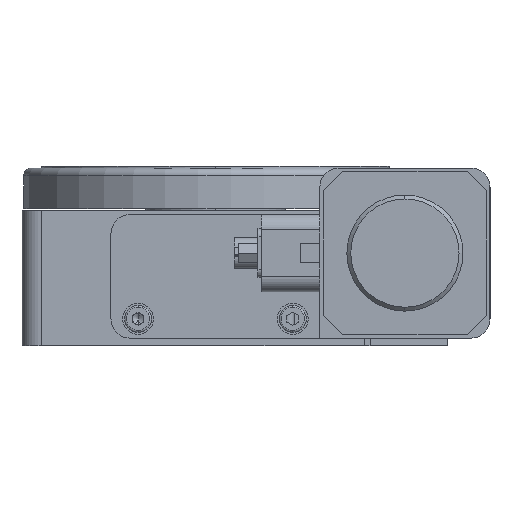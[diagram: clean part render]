
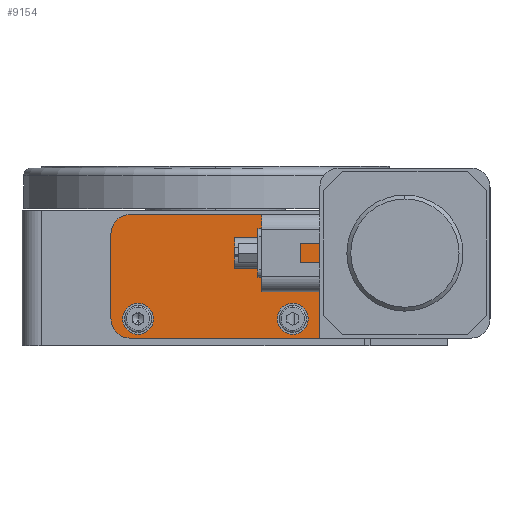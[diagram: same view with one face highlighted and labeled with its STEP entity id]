
A CAD part, front view. The second image highlights one B-rep face of the part: STEP entity #9154.
In plain terms, the highlighted planar face has unit normal (0, -1, 0).
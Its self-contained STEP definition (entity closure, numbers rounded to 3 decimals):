
#20 = DIRECTION ( 'NONE',  ( 0., -1., 0. ) ) ;
#170 = CARTESIAN_POINT ( 'NONE',  ( -20., -93., 7. ) ) ;
#313 = AXIS2_PLACEMENT_3D ( 'NONE', #1278, #12434, #2880 ) ;
#327 = CIRCLE ( 'NONE', #4083, 4. ) ;
#430 = ORIENTED_EDGE ( 'NONE', *, *, #1660, .T. ) ;
#485 = EDGE_CURVE ( 'NONE', #17589, #20093, #9389, .T. ) ;
#499 = CARTESIAN_POINT ( 'NONE',  ( 20., -93., 7. ) ) ;
#563 = AXIS2_PLACEMENT_3D ( 'NONE', #6719, #17867, #8306 ) ;
#977 = EDGE_CURVE ( 'NONE', #15010, #2017, #4265, .T. ) ;
#1278 = CARTESIAN_POINT ( 'NONE',  ( -20., -93., 7. ) ) ;
#1329 = LINE ( 'NONE', #9659, #20643 ) ;
#1468 = DIRECTION ( 'NONE',  ( 0., 0., -1. ) ) ;
#1491 = DIRECTION ( 'NONE',  ( 0., -1., 0. ) ) ;
#1586 = ORIENTED_EDGE ( 'NONE', *, *, #10010, .F. ) ;
#1660 = EDGE_CURVE ( 'NONE', #11964, #15936, #1329, .T. ) ;
#1760 = DIRECTION ( 'NONE',  ( 0., 0., -1. ) ) ;
#1763 = DIRECTION ( 'NONE',  ( 1., 0., 0. ) ) ;
#1931 = EDGE_CURVE ( 'NONE', #15936, #11647, #18267, .T. ) ;
#2002 = ORIENTED_EDGE ( 'NONE', *, *, #15072, .F. ) ;
#2017 = VERTEX_POINT ( 'NONE', #4698 ) ;
#2084 = DIRECTION ( 'NONE',  ( 0., 0., -1. ) ) ;
#2335 = CIRCLE ( 'NONE', #9787, 4. ) ;
#2757 = EDGE_CURVE ( 'NONE', #14701, #17461, #18772, .T. ) ;
#2880 = DIRECTION ( 'NONE',  ( 0., 0., -1. ) ) ;
#3003 = DIRECTION ( 'NONE',  ( 1., 0., 0. ) ) ;
#3466 = VECTOR ( 'NONE', #12568, 1000. ) ;
#3527 = FACE_OUTER_BOUND ( 'NONE', #11370, .T. ) ;
#3813 = AXIS2_PLACEMENT_3D ( 'NONE', #170, #11317, #1760 ) ;
#4083 = AXIS2_PLACEMENT_3D ( 'NONE', #499, #11628, #2084 ) ;
#4265 = CIRCLE ( 'NONE', #13669, 5. ) ;
#4698 = CARTESIAN_POINT ( 'NONE',  ( -22., -93., 2. ) ) ;
#4763 = CARTESIAN_POINT ( 'NONE',  ( -22., -93., 34. ) ) ;
#4911 = CARTESIAN_POINT ( 'NONE',  ( 27., -93., 2. ) ) ;
#5284 = EDGE_CURVE ( 'NONE', #7289, #11226, #2335, .T. ) ;
#6125 = DIRECTION ( 'NONE',  ( 0., -1., 0. ) ) ;
#6719 = CARTESIAN_POINT ( 'NONE',  ( 24.5, -93., 30.5 ) ) ;
#6968 = AXIS2_PLACEMENT_3D ( 'NONE', #9577, #20, #11183 ) ;
#6973 = EDGE_LOOP ( 'NONE', ( #12245, #2002 ) ) ;
#7289 = VERTEX_POINT ( 'NONE', #11373 ) ;
#7397 = EDGE_LOOP ( 'NONE', ( #9599, #20423 ) ) ;
#7878 = CARTESIAN_POINT ( 'NONE',  ( 27., -93., 2. ) ) ;
#8051 = AXIS2_PLACEMENT_3D ( 'NONE', #15647, #6125, #17245 ) ;
#8121 = PLANE ( 'NONE',  #12292 ) ;
#8252 = ORIENTED_EDGE ( 'NONE', *, *, #9655, .F. ) ;
#8306 = DIRECTION ( 'NONE',  ( 1., 0., 0. ) ) ;
#8469 = VERTEX_POINT ( 'NONE', #15807 ) ;
#9151 = VECTOR ( 'NONE', #20433, 1000. ) ;
#9154 = ADVANCED_FACE ( 'NONE', ( #18831, #18753, #3527 ), #8121, .T. ) ;
#9199 = CARTESIAN_POINT ( 'NONE',  ( -27., -93., 2. ) ) ;
#9389 = LINE ( 'NONE', #10965, #16223 ) ;
#9577 = CARTESIAN_POINT ( 'NONE',  ( -22., -93., 29. ) ) ;
#9599 = ORIENTED_EDGE ( 'NONE', *, *, #5284, .F. ) ;
#9655 = EDGE_CURVE ( 'NONE', #15010, #8469, #20125, .T. ) ;
#9659 = CARTESIAN_POINT ( 'NONE',  ( 27., -93., 2. ) ) ;
#9787 = AXIS2_PLACEMENT_3D ( 'NONE', #20593, #11029, #1468 ) ;
#9847 = CARTESIAN_POINT ( 'NONE',  ( 27., -93., 34. ) ) ;
#9864 = CARTESIAN_POINT ( 'NONE',  ( 22., -93., 30.5 ) ) ;
#10010 = EDGE_CURVE ( 'NONE', #11647, #15936, #18873, .T. ) ;
#10148 = CARTESIAN_POINT ( 'NONE',  ( 27., -93., 30.5 ) ) ;
#10830 = CIRCLE ( 'NONE', #6968, 5. ) ;
#10965 = CARTESIAN_POINT ( 'NONE',  ( 27., -93., 34. ) ) ;
#10978 = CARTESIAN_POINT ( 'NONE',  ( 27., -93., 2. ) ) ;
#11029 = DIRECTION ( 'NONE',  ( 0., -1., 0. ) ) ;
#11056 = CARTESIAN_POINT ( 'NONE',  ( -22., -93., 7. ) ) ;
#11183 = DIRECTION ( 'NONE',  ( 1., 0., 0. ) ) ;
#11226 = VERTEX_POINT ( 'NONE', #16371 ) ;
#11250 = DIRECTION ( 'NONE',  ( 1., 0., 0. ) ) ;
#11317 = DIRECTION ( 'NONE',  ( 0., -1., 0. ) ) ;
#11322 = DIRECTION ( 'NONE',  ( 0., -1., 0. ) ) ;
#11370 = EDGE_LOOP ( 'NONE', ( #8252, #12580, #16921, #430, #1586, #19606, #14519, #19137, #17382 ) ) ;
#11373 = CARTESIAN_POINT ( 'NONE',  ( 20., -93., 3. ) ) ;
#11549 = EDGE_CURVE ( 'NONE', #17589, #8469, #10830, .T. ) ;
#11574 = EDGE_CURVE ( 'NONE', #2017, #11964, #18149, .T. ) ;
#11628 = DIRECTION ( 'NONE',  ( 0., -1., 0. ) ) ;
#11647 = VERTEX_POINT ( 'NONE', #9864 ) ;
#11964 = VERTEX_POINT ( 'NONE', #7878 ) ;
#12245 = ORIENTED_EDGE ( 'NONE', *, *, #2757, .F. ) ;
#12292 = AXIS2_PLACEMENT_3D ( 'NONE', #4911, #11322, #1763 ) ;
#12418 = CARTESIAN_POINT ( 'NONE',  ( -20., -93., 11. ) ) ;
#12434 = DIRECTION ( 'NONE',  ( 0., -1., 0. ) ) ;
#12568 = DIRECTION ( 'NONE',  ( 0., 0., 1. ) ) ;
#12580 = ORIENTED_EDGE ( 'NONE', *, *, #977, .T. ) ;
#12643 = DIRECTION ( 'NONE',  ( 1., 0., 0. ) ) ;
#12703 = CARTESIAN_POINT ( 'NONE',  ( 27., -93., 2. ) ) ;
#13669 = AXIS2_PLACEMENT_3D ( 'NONE', #11056, #1491, #12643 ) ;
#13926 = EDGE_CURVE ( 'NONE', #15936, #20093, #17721, .T. ) ;
#14253 = CIRCLE ( 'NONE', #313, 4. ) ;
#14346 = VECTOR ( 'NONE', #11250, 1000. ) ;
#14519 = ORIENTED_EDGE ( 'NONE', *, *, #13926, .T. ) ;
#14701 = VERTEX_POINT ( 'NONE', #16097 ) ;
#15010 = VERTEX_POINT ( 'NONE', #18658 ) ;
#15072 = EDGE_CURVE ( 'NONE', #17461, #14701, #14253, .T. ) ;
#15647 = CARTESIAN_POINT ( 'NONE',  ( 24.5, -93., 30.5 ) ) ;
#15807 = CARTESIAN_POINT ( 'NONE',  ( -27., -93., 29. ) ) ;
#15936 = VERTEX_POINT ( 'NONE', #10148 ) ;
#16097 = CARTESIAN_POINT ( 'NONE',  ( -20., -93., 3. ) ) ;
#16223 = VECTOR ( 'NONE', #3003, 1000. ) ;
#16371 = CARTESIAN_POINT ( 'NONE',  ( 20., -93., 11. ) ) ;
#16807 = EDGE_CURVE ( 'NONE', #11226, #7289, #327, .T. ) ;
#16921 = ORIENTED_EDGE ( 'NONE', *, *, #11574, .T. ) ;
#17245 = DIRECTION ( 'NONE',  ( 1., 0., 0. ) ) ;
#17382 = ORIENTED_EDGE ( 'NONE', *, *, #11549, .T. ) ;
#17461 = VERTEX_POINT ( 'NONE', #12418 ) ;
#17589 = VERTEX_POINT ( 'NONE', #4763 ) ;
#17691 = DIRECTION ( 'NONE',  ( 0., 0., 1. ) ) ;
#17721 = LINE ( 'NONE', #10978, #3466 ) ;
#17867 = DIRECTION ( 'NONE',  ( 0., -1., 0. ) ) ;
#18149 = LINE ( 'NONE', #12703, #14346 ) ;
#18267 = CIRCLE ( 'NONE', #8051, 2.5 ) ;
#18658 = CARTESIAN_POINT ( 'NONE',  ( -27., -93., 7. ) ) ;
#18753 = FACE_BOUND ( 'NONE', #6973, .T. ) ;
#18772 = CIRCLE ( 'NONE', #3813, 4. ) ;
#18831 = FACE_BOUND ( 'NONE', #7397, .T. ) ;
#18873 = CIRCLE ( 'NONE', #563, 2.5 ) ;
#19137 = ORIENTED_EDGE ( 'NONE', *, *, #485, .F. ) ;
#19606 = ORIENTED_EDGE ( 'NONE', *, *, #1931, .F. ) ;
#20093 = VERTEX_POINT ( 'NONE', #9847 ) ;
#20125 = LINE ( 'NONE', #9199, #9151 ) ;
#20423 = ORIENTED_EDGE ( 'NONE', *, *, #16807, .F. ) ;
#20433 = DIRECTION ( 'NONE',  ( 0., 0., 1. ) ) ;
#20593 = CARTESIAN_POINT ( 'NONE',  ( 20., -93., 7. ) ) ;
#20643 = VECTOR ( 'NONE', #17691, 1000. ) ;
